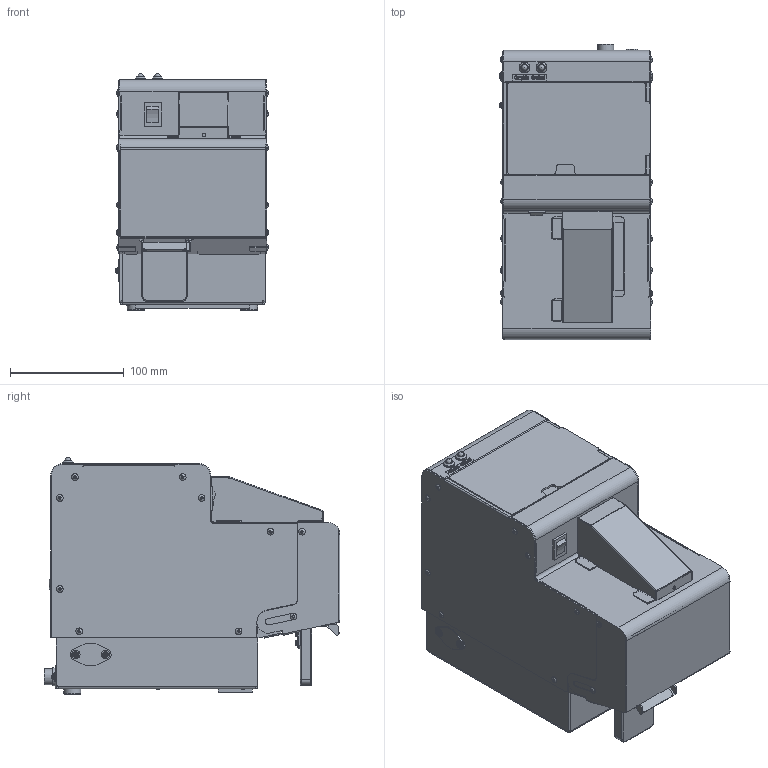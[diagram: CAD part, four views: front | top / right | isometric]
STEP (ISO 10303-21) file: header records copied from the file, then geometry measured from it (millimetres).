
FILE_DESCRIPTION(/* description */ (''),/* implementation_level */ '2;1');
FILE_NAME(/* name */ '',/* time_stamp */ '2024-07-30T14:00:01+09:00',/* author */ ('oikawa'),/* organization */ (''),/* preprocessor_version */ 'ST-DEVELOPER v20',/* originating_system */ 'Autodesk Inventor 2025',/* authorisation */ '');
FILE_SCHEMA (('CONFIG_CONTROL_DESIGN'));
Products named in the file (1): NJ66030_供給機ﾕﾆｯﾄ：FME-36
BD_簡略化_1
Bounding box: 134.45 x 259.54 x 208 mm (x, y, z)
Volume: 5208642.3 mm3; surface area: 340106.5 mm2
Topology: 1 solids, 34 shells, 1947 faces, 4999 edges, 3297 vertices
Faces by surface type: plane 1278, cylinder 471, bspline 142, sphere 33, torus 18, cone 5
Full cylindrical faces by diameter (mm): 1 x8, 2.113 x5, 2.5 x2, 2.6 x40, 2.7 x1, 3 x15, 3.5 x1, 4.5 x12, 5 x4, 5.2 x12, 5.7 x4, 5.9 x36, 6 x2, 6.1 x1, 6.6 x1, 7 x3, 7.5 x8, 7.8 x2, 8 x3, 9 x1, 9.2 x1, 9.4 x2, 11.2 x1, 12 x1, 14.25 x1, 15 x2, 16 x1, 18 x1
Entity records: 65449 total; most frequent: CARTESIAN_POINT 15347, ORIENTED_EDGE 9996, DIRECTION 9692, EDGE_CURVE 4998, VERTEX_POINT 3297, LINE 3236, VECTOR 3236, AXIS2_PLACEMENT_3D 3228
